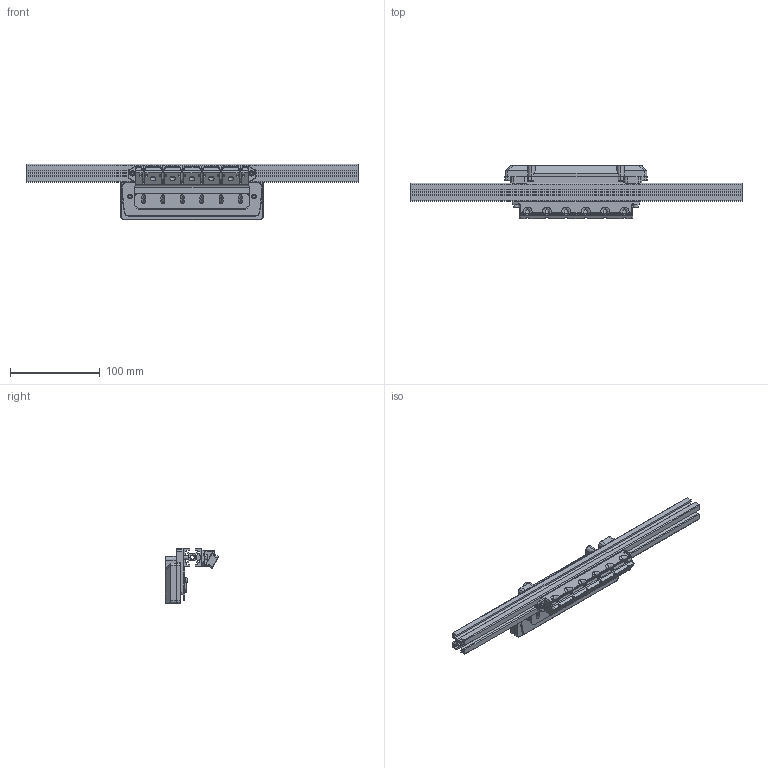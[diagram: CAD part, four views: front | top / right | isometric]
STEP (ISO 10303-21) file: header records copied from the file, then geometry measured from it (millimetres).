
FILE_DESCRIPTION(('HOOPS Exchange Step'),'2;1');
FILE_NAME('/Users/rileymahr/Library/Containers/com.shapr3d.shapr/Data/tmp/export/temp_export','2026-11-22T11:27:49-06:00',('rileymahr'),('Shapr3D Limited'),'HOOPS Exchange 2026.7','Shapr3D','Authorized');
FILE_SCHEMA( ('AP242_MANAGED_MODEL_BASED_3D_ENGINEERING_MIM_LF {1 0 10303 442 1 1 4}') );
Length unit declared in the file: millimetre
Products named in the file (28): FOAM; HFSB5-2020-370-TPW-A Extrusion v1:1; PTFE_Alignment:1; M3x8 SHCS v1:1; M5x10 BHCS v1:1; M3 Heat set:1; M5x10 BHCS v1:2; M3 Heat set:2; M3x8 SHCS v1:2; M3 Heat set:3; M3 Heat set:4; M3 Heat set:5; M3 Heat set:6; M3 Heat set:7; M3x8 SHCS v1:3; M3x8 SHCS v1:4; M3x6 BHCS v1:1; M3x6 BHCS v1:2; M3x6 BHCS v1:3; M3x6 BHCS v1:4; M3x6 BHCS v1:5; M3 Roll-In T Nut v1:1; M3 Roll-In T Nut v1 (1):1; Hardware:1; ptfe_inlet_6.step; Rear Inlet; CAD; root
Assembly tree (27 placements, depth 6):
  root
    CAD
      Rear Inlet
        FOAM
        ptfe_inlet_6.step
          HFSB5-2020-370-TPW-A Extrusion v1:1
          PTFE_Alignment:1
          Hardware:1
            M3x8 SHCS v1:1
            M5x10 BHCS v1:1
            M3 Heat set:1
            M5x10 BHCS v1:2
            M3 Heat set:2
            M3x8 SHCS v1:2
            M3 Heat set:3
            M3 Heat set:4
            M3 Heat set:5
            M3 Heat set:6
            M3 Heat set:7
            M3x8 SHCS v1:3
            M3x8 SHCS v1:4
            M3x6 BHCS v1:1
            M3x6 BHCS v1:2
            M3x6 BHCS v1:3
            M3x6 BHCS v1:4
            M3x6 BHCS v1:5
            M3 Roll-In T Nut v1:1
            M3 Roll-In T Nut v1 (1):1
Bounding box: 370 x 59.22 x 61.6 mm (x, y, z)
Volume: 207688.1 mm3; surface area: 136001.6 mm2
Topology: 28 solids, 28 shells, 2140 faces, 5847 edges, 3797 vertices
Faces by surface type: bspline 658, cylinder 572, plane 564, cone 327, torus 8, sphere 7, extrusion 4
Full cylindrical faces by diameter (mm): 2.7 x2, 2.9 x7, 3 x9, 3.086 x2, 3.2 x4, 3.4 x14, 3.5 x2, 4.1 x7, 4.134 x2, 4.2 x1, 4.25 x14, 4.5 x6, 4.6 x5, 4.7 x6, 5 x2, 5.5 x6, 5.7 x5, 6 x7, 9.5 x2, 11 x2
Entity records: 105538 total; most frequent: CARTESIAN_POINT 55568, ORIENTED_EDGE 11642, DIRECTION 8249, EDGE_CURVE 5821, VERTEX_POINT 3797, AXIS2_PLACEMENT_3D 3100, EDGE_LOOP 2290, FACE_BOUND 2290
